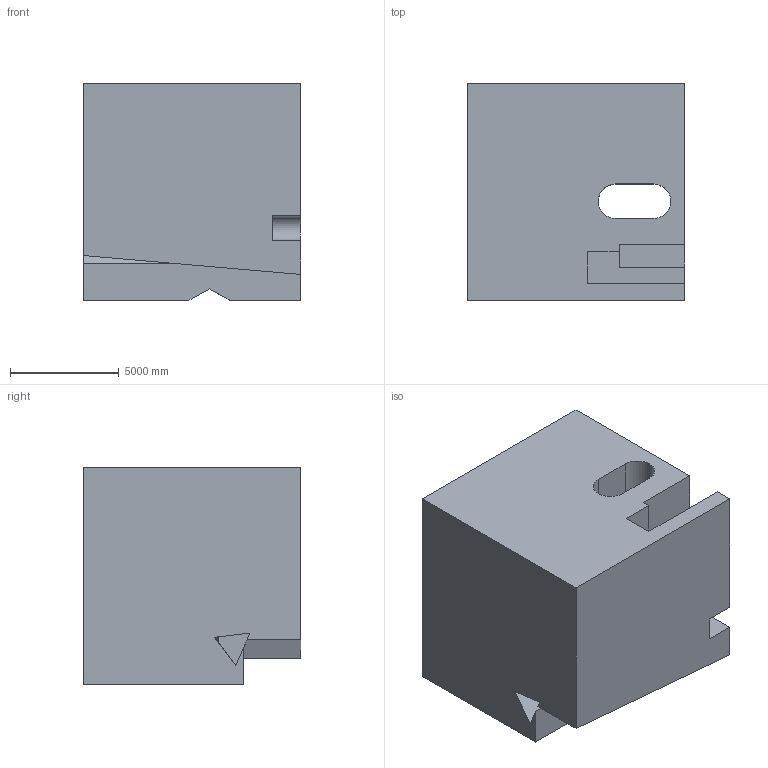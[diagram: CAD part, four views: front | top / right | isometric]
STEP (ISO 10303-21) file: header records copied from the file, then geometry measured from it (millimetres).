
FILE_DESCRIPTION (( 'STEP AP203' ), '1' );
FILE_NAME ('898.STEP', '2022-07-29T14:06:31', ( 'user' ), ( '' ), 'SwSTEP 2.0', 'SolidWorks 2021', '' );
FILE_SCHEMA (( 'CONFIG_CONTROL_DESIGN' ));
Length unit declared in the file: centimetre
Products named in the file (1): 898
Bounding box: 10000 x 10000 x 10000 mm (x, y, z)
Volume: 868090824585.8 mm3; surface area: 737562770.6 mm2
Topology: 1 solids, 1 shells, 38 faces, 114 edges, 76 vertices
Faces by surface type: plane 34, cylinder 4
Entity records: 1352 total; most frequent: CARTESIAN_POINT 238, ORIENTED_EDGE 228, DIRECTION 198, EDGE_CURVE 114, VECTOR 102, LINE 102, VERTEX_POINT 76, AXIS2_PLACEMENT_3D 48
